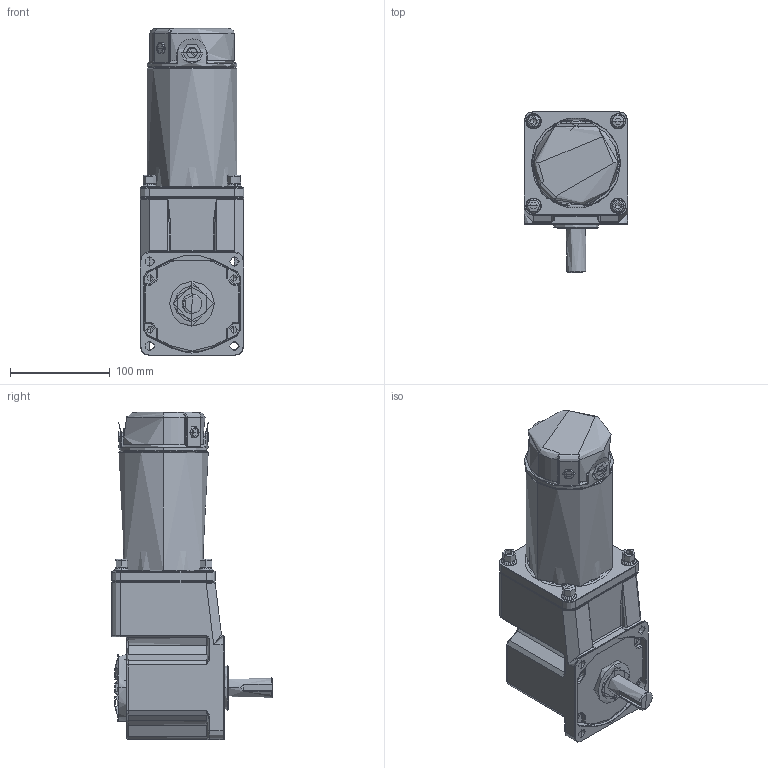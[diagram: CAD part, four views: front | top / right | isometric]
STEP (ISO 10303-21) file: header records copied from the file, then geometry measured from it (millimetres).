
FILE_DESCRIPTION (( 'STEP AP203' ), '1' );
FILE_NAME ('100-120»ú¿ÇRT.STEP', '2020-04-15T06:15:24', ( '' ), ( '' ), 'SwSTEP 2.0', 'SolidWorks 2018', '' );
FILE_SCHEMA (( 'CONFIG_CONTROL_DESIGN' ));
Length unit declared in the file: millimetre
Products named in the file (29): MANIFOLD_SOLID_BREP_1818; Z6D300W; H; LUO; MANIFOLD_SOLID_BREP_1811; BREP_WITH_VOIDS_95; MANIFOLD_SOLID_BREP_1821; MANIFOLD_SOLID_BREP_1837; MANIFOLD_SOLID_BREP_1816; MANIFOLD_SOLID_BREP_1834; MANIFOLD_SOLID_BREP_1840; MANIFOLD_SOLID_BREP_1835; ADMI1C15WG9D_ASM; MANIFOLD_SOLID_BREP_1841; MANIFOLD_SOLID_BREP_1844; MANIFOLD_SOLID_BREP_1833; JK; MANIFOLD_SOLID_BREP_1814; MANIFOLD_SOLID_BREP_1823; 6RT; MANIFOLD_SOLID_BREP_1830; MANIFOLD_SOLID_BREP_1824; MANIFOLD_SOLID_BREP_1812; MANIFOLD_SOLID_BREP_1843; TAN; MANIFOLD_SOLID_BREP_1829; PRT0001_1; 100-120儂褲RT; MANIFOLD_SOLID_BREP_1813
Assembly tree (30 placements, depth 4):
  100-120儂褲RT
    Z6D300W
      H
      LUO  x2
      TAN  x2
      JK
      PRT0001_1
    6RT
      ADMI1C15WG9D_ASM
        BREP_WITH_VOIDS_95
        MANIFOLD_SOLID_BREP_1811
        MANIFOLD_SOLID_BREP_1812
        MANIFOLD_SOLID_BREP_1813
        MANIFOLD_SOLID_BREP_1814
        MANIFOLD_SOLID_BREP_1816
        MANIFOLD_SOLID_BREP_1818
        MANIFOLD_SOLID_BREP_1821
        MANIFOLD_SOLID_BREP_1823
        MANIFOLD_SOLID_BREP_1824
        MANIFOLD_SOLID_BREP_1829
        MANIFOLD_SOLID_BREP_1830
        MANIFOLD_SOLID_BREP_1833
        MANIFOLD_SOLID_BREP_1834
        MANIFOLD_SOLID_BREP_1835
        MANIFOLD_SOLID_BREP_1837
        MANIFOLD_SOLID_BREP_1840
        MANIFOLD_SOLID_BREP_1841
        MANIFOLD_SOLID_BREP_1843
        MANIFOLD_SOLID_BREP_1844
Bounding box: 104 x 161.5 x 328.5 mm (x, y, z)
Volume: 1512821.6 mm3; surface area: 343503.2 mm2
Topology: 30 solids, 32 shells, 2651 faces, 6786 edges, 4158 vertices
Faces by surface type: bspline 731, plane 709, cylinder 674, cone 537
Full cylindrical faces by diameter (mm): 0.6 x30, 2 x24, 4 x1, 36 x1, 51 x4, 62 x4
Entity records: 137228 total; most frequent: CARTESIAN_POINT 79299, ORIENTED_EDGE 13144, DIRECTION 9105, EDGE_CURVE 6572, VERTEX_POINT 4083, AXIS2_PLACEMENT_3D 3601, EDGE_LOOP 2713, B_SPLINE_CURVE_WITH_KNOTS 2670
